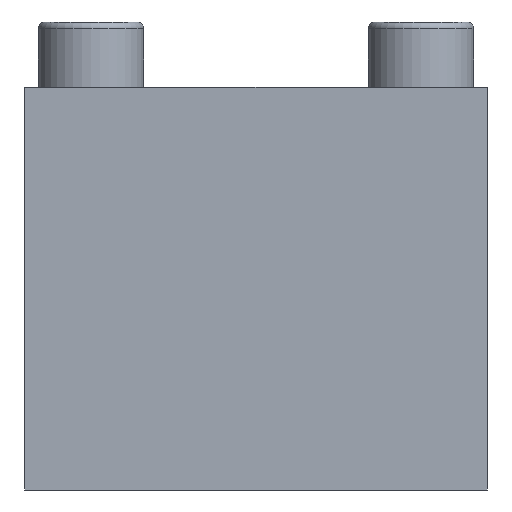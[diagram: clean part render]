
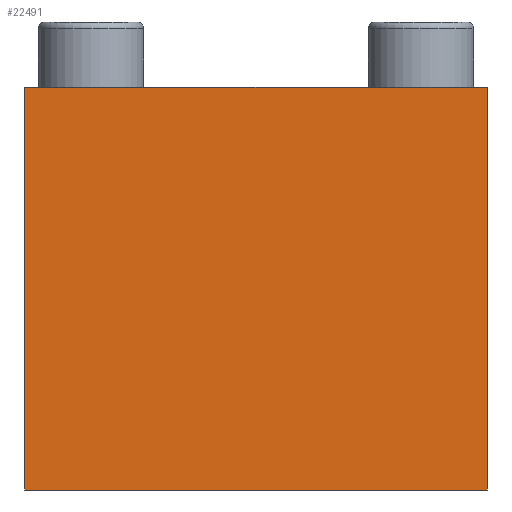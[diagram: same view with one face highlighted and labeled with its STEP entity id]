
A CAD part, front view. The second image highlights one B-rep face of the part: STEP entity #22491.
In plain terms, the highlighted planar face has unit normal (0, -1, 0).
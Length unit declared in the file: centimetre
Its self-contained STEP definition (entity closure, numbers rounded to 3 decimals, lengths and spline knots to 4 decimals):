
#2331=FACE_OUTER_BOUND('',#3527,.T.);
#3527=EDGE_LOOP('',(#15245,#15246,#15247,#15248));
#4859=LINE('',#28994,#7367);
#4863=LINE('',#29003,#7371);
#4864=LINE('',#29004,#7372);
#4865=LINE('',#29005,#7373);
#7367=VECTOR('',#24627,6.1);
#7371=VECTOR('',#24633,6.1);
#7372=VECTOR('',#24634,7.);
#7373=VECTOR('',#24635,7.);
#9911=VERTEX_POINT('',#28992);
#9912=VERTEX_POINT('',#28993);
#9915=VERTEX_POINT('',#29001);
#9916=VERTEX_POINT('',#29002);
#12047=EDGE_CURVE('',#9911,#9912,#4859,.T.);
#12051=EDGE_CURVE('',#9915,#9916,#4863,.T.);
#12052=EDGE_CURVE('',#9911,#9915,#4864,.T.);
#12053=EDGE_CURVE('',#9916,#9912,#4865,.T.);
#15245=ORIENTED_EDGE('',*,*,#12051,.F.);
#15246=ORIENTED_EDGE('',*,*,#12052,.F.);
#15247=ORIENTED_EDGE('',*,*,#12047,.T.);
#15248=ORIENTED_EDGE('',*,*,#12053,.F.);
#21627=PLANE('',#23691);
#22491=ADVANCED_FACE('',(#2331),#21627,.T.);
#23691=AXIS2_PLACEMENT_3D('',#29000,#24631,#24632);
#24627=DIRECTION('',(0.,0.,-1.));
#24631=DIRECTION('center_axis',(0.,-1.,0.));
#24632=DIRECTION('ref_axis',(-1.,0.,0.));
#24633=DIRECTION('',(0.,0.,-1.));
#24634=DIRECTION('',(1.,0.,0.));
#24635=DIRECTION('',(-1.,0.,0.));
#28992=CARTESIAN_POINT('',(-3.5,-8.5,4.85));
#28993=CARTESIAN_POINT('',(-3.5,-8.5,-1.25));
#28994=CARTESIAN_POINT('',(-3.5,-8.5,0.));
#29000=CARTESIAN_POINT('Origin',(3.5,-8.5,3.6));
#29001=CARTESIAN_POINT('',(3.5,-8.5,4.85));
#29002=CARTESIAN_POINT('',(3.5,-8.5,-1.25));
#29003=CARTESIAN_POINT('',(3.5,-8.5,0.));
#29004=CARTESIAN_POINT('',(3.5,-8.5,4.85));
#29005=CARTESIAN_POINT('',(3.5,-8.5,-1.25));
